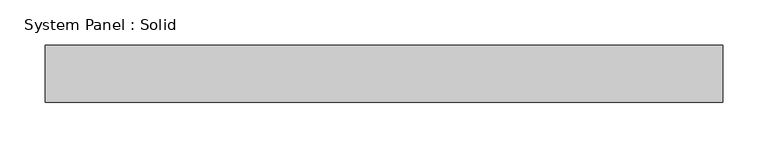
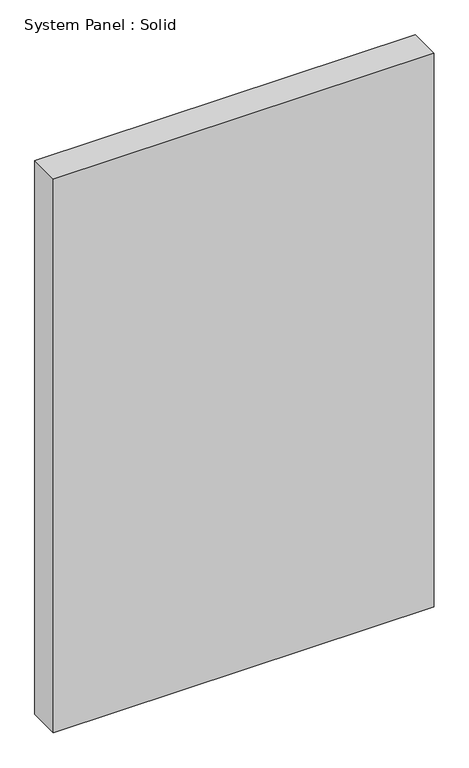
"""IFC4 building model written with IfcOpenShell, lengths in millimetres: plate geometry, System Panel : Solid."""

from ifc_helpers import new_model, si_unit, origin, origin_with_axes, place, context, project, spatial, polyline, outline, extrude, source, transform, mapped, element, save


def system_panel_solid_2f6d7fa1(model_context):
    return source(origin(), model_context, "Body", "SweptSolid", [
        extrude(outline(polyline([(375.7570972, -19.05), (-375.7570972, -19.05), (-375.7570972, 44.45), (375.7570972, 44.45), (375.7570972, -19.05)])), origin_with_axes(), (0.0, 0.0, 1.0), 1155.7),
    ])


if __name__ == "__main__":
    model = new_model("IFC4")
    model_context = context("Model", 3, world=origin())
    ifc_project = project(units=[si_unit("LENGTHUNIT", "METRE", prefix="MILLI")], contexts=[model_context])
    site = spatial("IfcSite", under=ifc_project)
    building = spatial("IfcBuilding", under=site)
    placement = place(None, origin())
    system_panel_solid_shape = system_panel_solid_2f6d7fa1(model_context)
    element("IfcPlate", 1, ObjectType="System Panel : Solid", at=placement, inside=building, context=model_context, shape_type="MappedRepresentation", body=[
        mapped(system_panel_solid_shape, transform((0.0, 0.0, 0.0), x_axis=(1.0, 0.0, 0.0), y_axis=(0.0, 1.0, 0.0), z_axis=(0.0, 0.0, 1.0))),
    ])
    save(model, "model.ifc")
